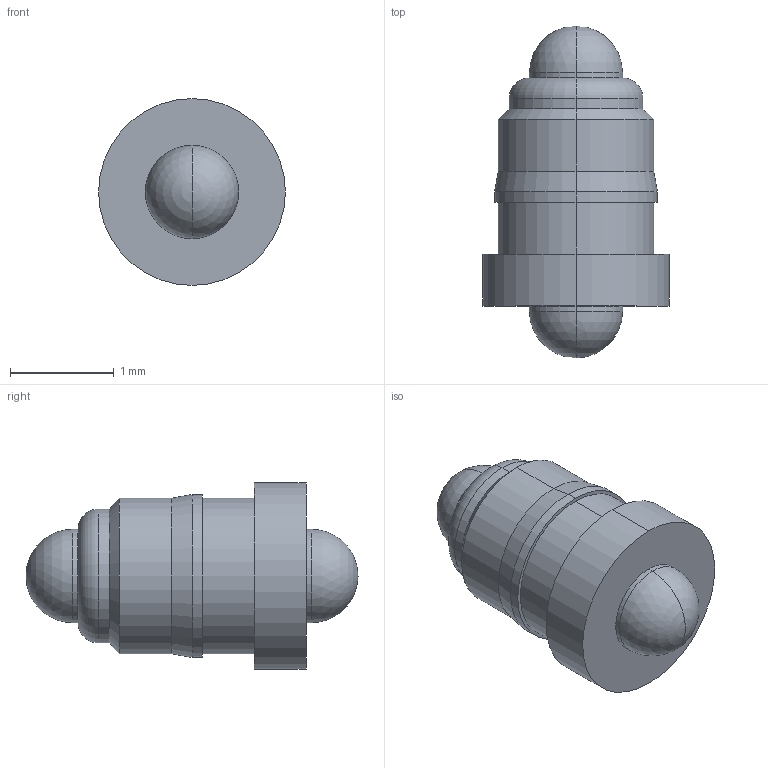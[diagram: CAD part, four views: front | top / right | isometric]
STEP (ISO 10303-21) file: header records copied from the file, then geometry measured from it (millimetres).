
FILE_DESCRIPTION((''),'2;1');
FILE_NAME('PRT0017','2025-10-14T19:41:49',('USER'),(''),'CREO PARAMETRIC BY PTC INC, 2018400','CREO PARAMETRIC BY PTC INC, 2018400','');
FILE_SCHEMA(('CONFIG_CONTROL_DESIGN','SHAPE_APPEARANCE_LAYERS_GROUPS'));
Length unit declared in the file: millimetre
Products named in the file (1): PRT0017
Bounding box: 1.8 x 3.2 x 1.8 mm (x, y, z)
Volume: 4.6 mm3; surface area: 16.9 mm2
Topology: 1 solids, 1 shells, 27 faces, 56 edges, 30 vertices
Faces by surface type: cylinder 14, sphere 4, cone 4, plane 3, torus 2
Entity records: 929 total; most frequent: DIRECTION 140, CARTESIAN_POINT 109, ORIENTED_EDGE 104, AXIS2_PLACEMENT_3D 61, PRESENTATION_STYLE_ASSIGNMENT 53, STYLED_ITEM 53, CURVE_STYLE 52, EDGE_CURVE 52
